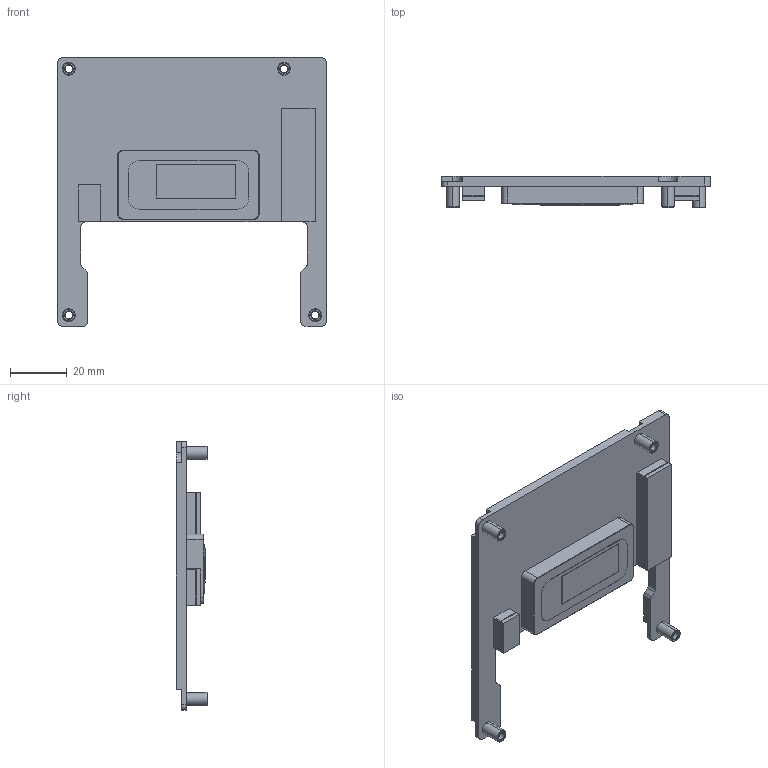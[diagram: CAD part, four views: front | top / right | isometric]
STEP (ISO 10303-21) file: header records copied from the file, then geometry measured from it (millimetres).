
FILE_DESCRIPTION((''),'2;1');
FILE_NAME('HS-93U0-F1_ASM','2025-11-27T',('nina'),(''),'CREO PARAMETRIC BY PTC INC, 2018070','CREO PARAMETRIC BY PTC INC, 2018070','');
FILE_SCHEMA(('AUTOMOTIVE_DESIGN { 1 0 10303 214 1 1 1 1 }'));
Length unit declared in the file: millimetre
Products named in the file (5): HS-93U0-F1; TP_12X28X02T; PAD_1-5T-DOM-1; PAD_1-5T-DOM-2; HS-93U0-F1_ASM
Assembly tree (4 placements, depth 2):
  HS-93U0-F1_ASM
    HS-93U0-F1
    TP_12X28X02T
    PAD_1-5T-DOM-1
    PAD_1-5T-DOM-2
Bounding box: 95 x 11 x 95 mm (x, y, z)
Volume: 32158.7 mm3; surface area: 18045.6 mm2
Topology: 4 solids, 4 shells, 150 faces, 364 edges, 224 vertices
Faces by surface type: plane 76, cylinder 42, cone 32
Entity records: 6192 total; most frequent: DIRECTION 790, CARTESIAN_POINT 756, ORIENTED_EDGE 720, PRESENTATION_STYLE_ASSIGNMENT 365, STYLED_ITEM 365, CURVE_STYLE 360, EDGE_CURVE 360, AXIS2_PLACEMENT_3D 271
